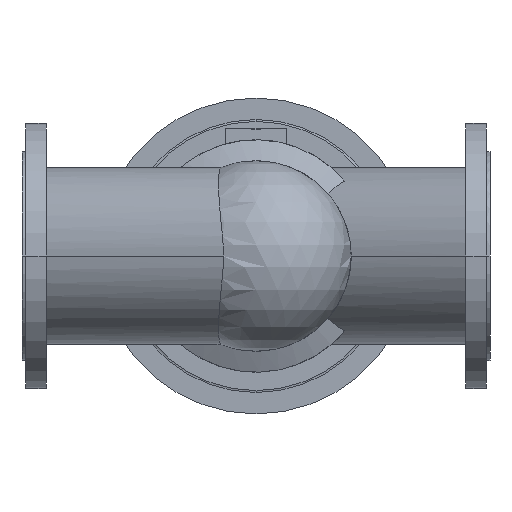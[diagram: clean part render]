
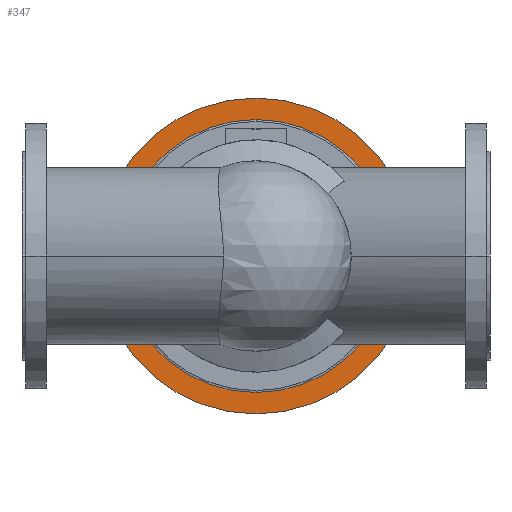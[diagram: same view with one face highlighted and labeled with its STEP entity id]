
A CAD part, front view. The second image highlights one B-rep face of the part: STEP entity #347.
In plain terms, the highlighted planar face has unit normal (0, -1, 0).
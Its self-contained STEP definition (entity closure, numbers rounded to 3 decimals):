
#347 = ADVANCED_FACE( '', ( #883, #884 ), #885, .T. );
#883 = FACE_OUTER_BOUND( '', #1428, .T. );
#884 = FACE_BOUND( '', #1429, .T. );
#885 = PLANE( '', #1430 );
#1428 = EDGE_LOOP( '', ( #3229, #3230 ) );
#1429 = EDGE_LOOP( '', ( #3231, #3232, #3233 ) );
#1430 = AXIS2_PLACEMENT_3D( '', #3234, #3235, #3236 );
#3229 = ORIENTED_EDGE( '', *, *, #3714, .F. );
#3230 = ORIENTED_EDGE( '', *, *, #3853, .F. );
#3231 = ORIENTED_EDGE( '', *, *, #3851, .T. );
#3232 = ORIENTED_EDGE( '', *, *, #3721, .T. );
#3233 = ORIENTED_EDGE( '', *, *, #3852, .T. );
#3234 = CARTESIAN_POINT( '', ( 488.75, 1169., 0. ) );
#3235 = DIRECTION( '', ( 0., -1., 0. ) );
#3236 = DIRECTION( '', ( -1., 0., 0. ) );
#3714 = EDGE_CURVE( '', #4574, #4577, #4578, .T. );
#3721 = EDGE_CURVE( '', #4583, #4589, #4591, .T. );
#3851 = EDGE_CURVE( '', #4805, #4583, #4806, .T. );
#3852 = EDGE_CURVE( '', #4589, #4805, #4807, .T. );
#3853 = EDGE_CURVE( '', #4577, #4574, #4808, .T. );
#4574 = VERTEX_POINT( '', #6311 );
#4577 = VERTEX_POINT( '', #6315 );
#4578 = CIRCLE( '', #6316, 202.5 );
#4583 = VERTEX_POINT( '', #6322 );
#4589 = VERTEX_POINT( '', #6328 );
#4591 = CIRCLE( '', #6330, 175. );
#4805 = VERTEX_POINT( '', #6608 );
#4806 = CIRCLE( '', #6609, 175. );
#4807 = CIRCLE( '', #6610, 175. );
#4808 = CIRCLE( '', #6611, 202.5 );
#6311 = CARTESIAN_POINT( '', ( 502.5, 1169., 0. ) );
#6315 = CARTESIAN_POINT( '', ( 97.5, 1169., 0. ) );
#6316 = AXIS2_PLACEMENT_3D( '', #7489, #7490, #7491 );
#6322 = CARTESIAN_POINT( '', ( 300., 1169., -175. ) );
#6328 = CARTESIAN_POINT( '', ( 300., 1169., 175. ) );
#6330 = AXIS2_PLACEMENT_3D( '', #7508, #7509, #7510 );
#6608 = CARTESIAN_POINT( '', ( 475., 1169., 0. ) );
#6609 = AXIS2_PLACEMENT_3D( '', #7770, #7771, #7772 );
#6610 = AXIS2_PLACEMENT_3D( '', #7773, #7774, #7775 );
#6611 = AXIS2_PLACEMENT_3D( '', #7776, #7777, #7778 );
#7489 = CARTESIAN_POINT( '', ( 300., 1169., 0. ) );
#7490 = DIRECTION( '', ( 0., 1., 0. ) );
#7491 = DIRECTION( '', ( 1., 0., 0. ) );
#7508 = CARTESIAN_POINT( '', ( 300., 1169., 0. ) );
#7509 = DIRECTION( '', ( 0., 1., 0. ) );
#7510 = DIRECTION( '', ( 1., 0., 0. ) );
#7770 = CARTESIAN_POINT( '', ( 300., 1169., 0. ) );
#7771 = DIRECTION( '', ( 0., 1., 0. ) );
#7772 = DIRECTION( '', ( 1., 0., 0. ) );
#7773 = CARTESIAN_POINT( '', ( 300., 1169., 0. ) );
#7774 = DIRECTION( '', ( 0., 1., 0. ) );
#7775 = DIRECTION( '', ( 1., 0., 0. ) );
#7776 = CARTESIAN_POINT( '', ( 300., 1169., 0. ) );
#7777 = DIRECTION( '', ( 0., 1., 0. ) );
#7778 = DIRECTION( '', ( 1., 0., 0. ) );
